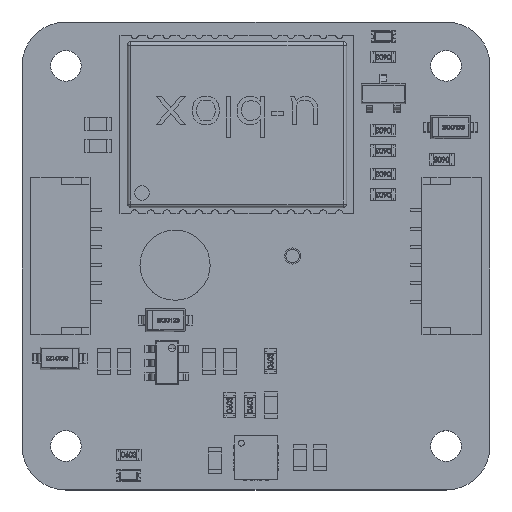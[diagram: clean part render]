
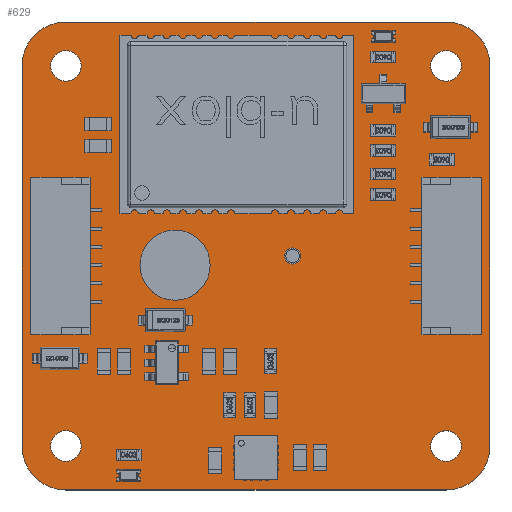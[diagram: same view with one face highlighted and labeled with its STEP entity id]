
A CAD part, top view. The second image highlights one B-rep face of the part: STEP entity #629.
In plain terms, the highlighted planar face has unit normal (0, 0, 1).
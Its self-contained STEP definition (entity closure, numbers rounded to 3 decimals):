
#184 = VERTEX_POINT('',#185);
#185 = CARTESIAN_POINT('',(-16.,-13.,0.624));
#191 = EDGE_CURVE('',#184,#192,#194,.T.);
#192 = VERTEX_POINT('',#193);
#193 = CARTESIAN_POINT('',(-16.,13.,0.624));
#194 = LINE('',#195,#196);
#195 = CARTESIAN_POINT('',(-16.,-13.,0.624));
#196 = VECTOR('',#197,1.);
#197 = DIRECTION('',(0.,1.,0.));
#222 = EDGE_CURVE('',#192,#223,#225,.T.);
#223 = VERTEX_POINT('',#224);
#224 = CARTESIAN_POINT('',(-13.,16.,0.624));
#225 = CIRCLE('',#226,3.001);
#226 = AXIS2_PLACEMENT_3D('',#227,#228,#229);
#227 = CARTESIAN_POINT('',(-12.999,12.999,0.624));
#228 = DIRECTION('',(0.,0.,-1.));
#229 = DIRECTION('',(-1.,0.,0.));
#255 = EDGE_CURVE('',#223,#256,#258,.T.);
#256 = VERTEX_POINT('',#257);
#257 = CARTESIAN_POINT('',(13.,16.,0.624));
#258 = LINE('',#259,#260);
#259 = CARTESIAN_POINT('',(-13.,16.,0.624));
#260 = VECTOR('',#261,1.);
#261 = DIRECTION('',(1.,0.,0.));
#286 = EDGE_CURVE('',#256,#287,#289,.T.);
#287 = VERTEX_POINT('',#288);
#288 = CARTESIAN_POINT('',(16.,13.,0.624));
#289 = CIRCLE('',#290,3.001);
#290 = AXIS2_PLACEMENT_3D('',#291,#292,#293);
#291 = CARTESIAN_POINT('',(12.999,12.999,0.624));
#292 = DIRECTION('',(0.,0.,-1.));
#293 = DIRECTION('',(0.,1.,0.));
#319 = EDGE_CURVE('',#287,#320,#322,.T.);
#320 = VERTEX_POINT('',#321);
#321 = CARTESIAN_POINT('',(16.,-13.,0.624));
#322 = LINE('',#323,#324);
#323 = CARTESIAN_POINT('',(16.,13.,0.624));
#324 = VECTOR('',#325,1.);
#325 = DIRECTION('',(0.,-1.,0.));
#350 = EDGE_CURVE('',#320,#351,#353,.T.);
#351 = VERTEX_POINT('',#352);
#352 = CARTESIAN_POINT('',(13.,-16.,0.624));
#353 = CIRCLE('',#354,3.001);
#354 = AXIS2_PLACEMENT_3D('',#355,#356,#357);
#355 = CARTESIAN_POINT('',(12.999,-12.999,0.624));
#356 = DIRECTION('',(0.,0.,-1.));
#357 = DIRECTION('',(1.,0.,0.));
#383 = EDGE_CURVE('',#351,#384,#386,.T.);
#384 = VERTEX_POINT('',#385);
#385 = CARTESIAN_POINT('',(-13.,-16.,0.624));
#386 = LINE('',#387,#388);
#387 = CARTESIAN_POINT('',(13.,-16.,0.624));
#388 = VECTOR('',#389,1.);
#389 = DIRECTION('',(-1.,0.,0.));
#414 = EDGE_CURVE('',#384,#184,#415,.T.);
#415 = CIRCLE('',#416,3.001);
#416 = AXIS2_PLACEMENT_3D('',#417,#418,#419);
#417 = CARTESIAN_POINT('',(-12.999,-12.999,0.624));
#418 = DIRECTION('',(0.,0.,-1.));
#419 = DIRECTION('',(0.,-1.,0.));
#440 = VERTEX_POINT('',#441);
#441 = CARTESIAN_POINT('',(-11.95,-13.,0.624));
#447 = EDGE_CURVE('',#440,#440,#448,.T.);
#448 = CIRCLE('',#449,1.05);
#449 = AXIS2_PLACEMENT_3D('',#450,#451,#452);
#450 = CARTESIAN_POINT('',(-13.,-13.,0.624));
#451 = DIRECTION('',(0.,0.,1.));
#452 = DIRECTION('',(1.,0.,0.));
#473 = VERTEX_POINT('',#474);
#474 = CARTESIAN_POINT('',(-11.95,13.,0.624));
#480 = EDGE_CURVE('',#473,#473,#481,.T.);
#481 = CIRCLE('',#482,1.05);
#482 = AXIS2_PLACEMENT_3D('',#483,#484,#485);
#483 = CARTESIAN_POINT('',(-13.,13.,0.624));
#484 = DIRECTION('',(0.,0.,1.));
#485 = DIRECTION('',(1.,0.,0.));
#506 = VERTEX_POINT('',#507);
#507 = CARTESIAN_POINT('',(14.05,-13.,0.624));
#513 = EDGE_CURVE('',#506,#506,#514,.T.);
#514 = CIRCLE('',#515,1.05);
#515 = AXIS2_PLACEMENT_3D('',#516,#517,#518);
#516 = CARTESIAN_POINT('',(13.,-13.,0.624));
#517 = DIRECTION('',(0.,0.,1.));
#518 = DIRECTION('',(1.,0.,0.));
#539 = VERTEX_POINT('',#540);
#540 = CARTESIAN_POINT('',(3.05,0.,0.624));
#546 = EDGE_CURVE('',#539,#539,#547,.T.);
#547 = CIRCLE('',#548,0.55);
#548 = AXIS2_PLACEMENT_3D('',#549,#550,#551);
#549 = CARTESIAN_POINT('',(2.5,0.,0.624));
#550 = DIRECTION('',(0.,0.,1.));
#551 = DIRECTION('',(1.,0.,0.));
#572 = VERTEX_POINT('',#573);
#573 = CARTESIAN_POINT('',(14.05,13.,0.624));
#579 = EDGE_CURVE('',#572,#572,#580,.T.);
#580 = CIRCLE('',#581,1.05);
#581 = AXIS2_PLACEMENT_3D('',#582,#583,#584);
#582 = CARTESIAN_POINT('',(13.,13.,0.624));
#583 = DIRECTION('',(0.,0.,1.));
#584 = DIRECTION('',(1.,0.,0.));
#629 = ADVANCED_FACE('',(#630,#640,#643,#646,#649,#652),#655,.T.);
#630 = FACE_BOUND('',#631,.F.);
#631 = EDGE_LOOP('',(#632,#633,#634,#635,#636,#637,#638,#639));
#632 = ORIENTED_EDGE('',*,*,#191,.T.);
#633 = ORIENTED_EDGE('',*,*,#222,.T.);
#634 = ORIENTED_EDGE('',*,*,#255,.T.);
#635 = ORIENTED_EDGE('',*,*,#286,.T.);
#636 = ORIENTED_EDGE('',*,*,#319,.T.);
#637 = ORIENTED_EDGE('',*,*,#350,.T.);
#638 = ORIENTED_EDGE('',*,*,#383,.T.);
#639 = ORIENTED_EDGE('',*,*,#414,.T.);
#640 = FACE_BOUND('',#641,.T.);
#641 = EDGE_LOOP('',(#642));
#642 = ORIENTED_EDGE('',*,*,#447,.F.);
#643 = FACE_BOUND('',#644,.T.);
#644 = EDGE_LOOP('',(#645));
#645 = ORIENTED_EDGE('',*,*,#480,.F.);
#646 = FACE_BOUND('',#647,.T.);
#647 = EDGE_LOOP('',(#648));
#648 = ORIENTED_EDGE('',*,*,#513,.F.);
#649 = FACE_BOUND('',#650,.T.);
#650 = EDGE_LOOP('',(#651));
#651 = ORIENTED_EDGE('',*,*,#546,.F.);
#652 = FACE_BOUND('',#653,.T.);
#653 = EDGE_LOOP('',(#654));
#654 = ORIENTED_EDGE('',*,*,#579,.F.);
#655 = PLANE('',#656);
#656 = AXIS2_PLACEMENT_3D('',#657,#658,#659);
#657 = CARTESIAN_POINT('',(-16.,-13.,0.624));
#658 = DIRECTION('',(0.,0.,1.));
#659 = DIRECTION('',(1.,0.,0.));
